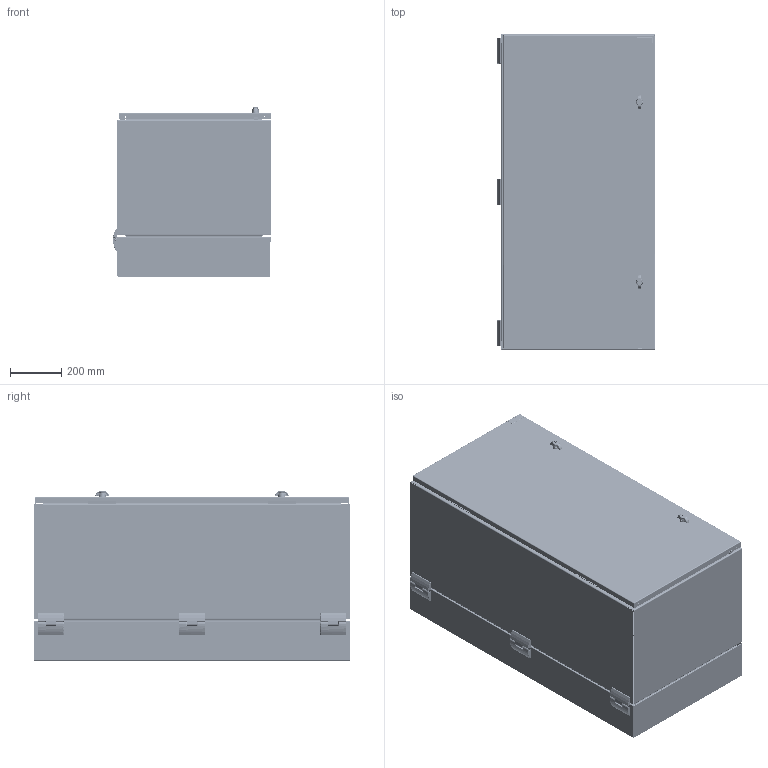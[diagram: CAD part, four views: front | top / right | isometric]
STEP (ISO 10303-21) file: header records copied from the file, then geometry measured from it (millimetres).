
FILE_DESCRIPTION (( 'STEP AP203' ), '1' );
FILE_NAME ('pths482424g4.STEP', '2011-11-30T19:48:55', ( 'Hoffman User' ), ( 'Hoffman Enclosures' ), 'SwSTEP 2.0', 'SolidWorks 2010', '' );
FILE_SCHEMA (( 'CONFIG_CONTROL_DESIGN' ));
Products named in the file (45): pths482424g4; 89078335; 89078334; 89060190; 89060191; 89071699_Installed Config; 89079061; 89078337; 89078336; 89066272; 99401225; 89076596_89060267; 89076597_Compressed wdw gasket; 89076598_89060269; 60127101_60127101; 89074727; 60100041_60100041; 87931527_87931527; 87931368_SLEEVE; 89071927_FOR 16GA; 99407418; 87928600; 64138001; 89066975; 89066980; 89066979_WITH STAKE; 89066976; 89066978; 89066977; 87540581; 87790199; 60127214_601272214; 87790201_87790201; 60127135_Installed postion; 60127199_60127199; 56906712_56906712; 89060213; 89070550; 89070549; 89056327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
Assembly tree (113 placements, depth 5):
  pths482424g4
    89079061
      89078336
      99401225  x28
      89066272  x2
      60100041_60100041  x2
        87931527_87931527
        87931368_SLEEVE
      89078337
    89060213  x3
    89060214  x3
    89072125_87931339  x2
    89071543_89071543  x3
    89078335
      89071699_Installed Config  x7
      89060191  x2
      60100041_60100041
        87931527_87931527
        87931368_SLEEVE
      89074727
      89060190  x2
      89078334
    89066975  x3
    89066980  x3
      87540581
      89066976
      89066979_WITH STAKE
    89060212  x3
    87790199  x2
    89076596_89060267
      99407418  x2
      89071927_FOR 16GA  x2
      89076597_Compressed wdw gasket
        89074727
        89076598_89060269
        60127101_60127101  x2
        60100041_60100041
          87931527_87931527
          87931368_SLEEVE
      64138001  x2
      87928600
    89066978  x3
      87540581
      89066977
    89060606_89060606  x2
    60127214_601272214  x2
      60127135_Installed postion
      56906712_56906712
      60127199_60127199
      87790201_87790201
    89070550  x3
      89070549
      89056327
Bounding box: 616 x 1233 x 659.17 mm (x, y, z)
Volume: 9093949.5 mm3; surface area: 9806176.4 mm2
Topology: 123 solids, 143 shells, 8399 faces, 20716 edges, 12687 vertices
Faces by surface type: plane 3419, cylinder 2720, bspline 1173, cone 597, torus 342, sphere 148
Entity records: 165381 total; most frequent: CARTESIAN_POINT 74673, ORIENTED_EDGE 18246, DIRECTION 16361, EDGE_CURVE 9123, AXIS2_PLACEMENT_3D 5803, VERTEX_POINT 5664, VECTOR 4755, LINE 4755
